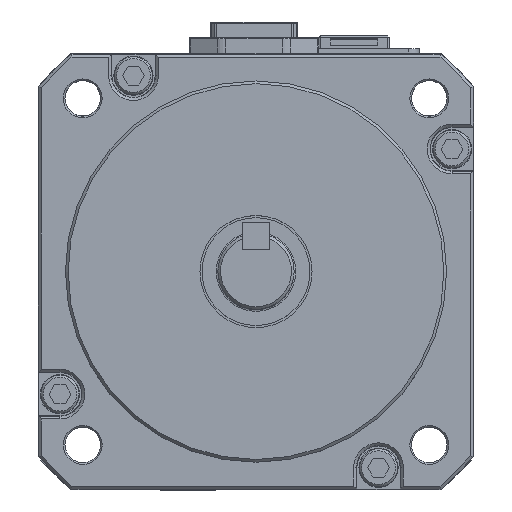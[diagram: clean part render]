
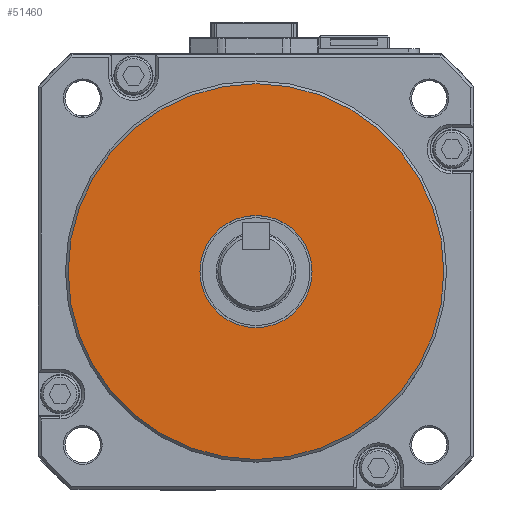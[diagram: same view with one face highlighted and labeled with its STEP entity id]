
A CAD part, top view. The second image highlights one B-rep face of the part: STEP entity #51460.
In plain terms, the highlighted planar face has unit normal (0, 0, 1).
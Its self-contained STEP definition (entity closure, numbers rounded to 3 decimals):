
#290 = CARTESIAN_POINT ( 'NONE',  ( 0., 0., 13. ) ) ;
#523 = ORIENTED_EDGE ( 'NONE', *, *, #20998, .F. ) ;
#2478 = CARTESIAN_POINT ( 'NONE',  ( 34.5, 0., 13. ) ) ;
#2931 = PLANE ( 'NONE',  #17589 ) ;
#4105 = AXIS2_PLACEMENT_3D ( 'NONE', #11503, #7246, #17059 ) ;
#6111 = EDGE_CURVE ( 'NONE', #28685, #28685, #34614, .T. ) ;
#7246 = DIRECTION ( 'NONE',  ( 0., 0., 1. ) ) ;
#9596 = DIRECTION ( 'NONE',  ( 1., 0., 0. ) ) ;
#9903 = DIRECTION ( 'NONE',  ( 0., 0., 1. ) ) ;
#11503 = CARTESIAN_POINT ( 'NONE',  ( 0., 0., 13. ) ) ;
#15082 = VERTEX_POINT ( 'NONE', #34831 ) ;
#17059 = DIRECTION ( 'NONE',  ( 1., 0., 0. ) ) ;
#17589 = AXIS2_PLACEMENT_3D ( 'NONE', #290, #25271, #19820 ) ;
#19820 = DIRECTION ( 'NONE',  ( 1., 0., 0. ) ) ;
#20998 = EDGE_CURVE ( 'NONE', #15082, #15082, #49745, .T. ) ;
#25271 = DIRECTION ( 'NONE',  ( 0., 0., 1. ) ) ;
#28685 = VERTEX_POINT ( 'NONE', #2478 ) ;
#30862 = ORIENTED_EDGE ( 'NONE', *, *, #6111, .T. ) ;
#34614 = CIRCLE ( 'NONE', #55297, 34.5 ) ;
#34831 = CARTESIAN_POINT ( 'NONE',  ( 10.3, 0., 13. ) ) ;
#37659 = FACE_BOUND ( 'NONE', #52623, .T. ) ;
#49745 = CIRCLE ( 'NONE', #4105, 10.3 ) ;
#51460 = ADVANCED_FACE ( 'NONE', ( #37659, #52220 ), #2931, .T. ) ;
#51650 = EDGE_LOOP ( 'NONE', ( #30862 ) ) ;
#52220 = FACE_OUTER_BOUND ( 'NONE', #51650, .T. ) ;
#52623 = EDGE_LOOP ( 'NONE', ( #523 ) ) ;
#55297 = AXIS2_PLACEMENT_3D ( 'NONE', #63118, #9903, #9596 ) ;
#63118 = CARTESIAN_POINT ( 'NONE',  ( 0., 0., 13. ) ) ;
